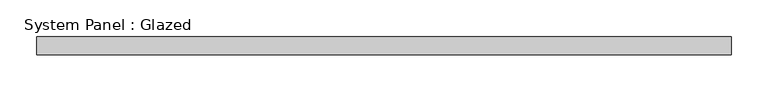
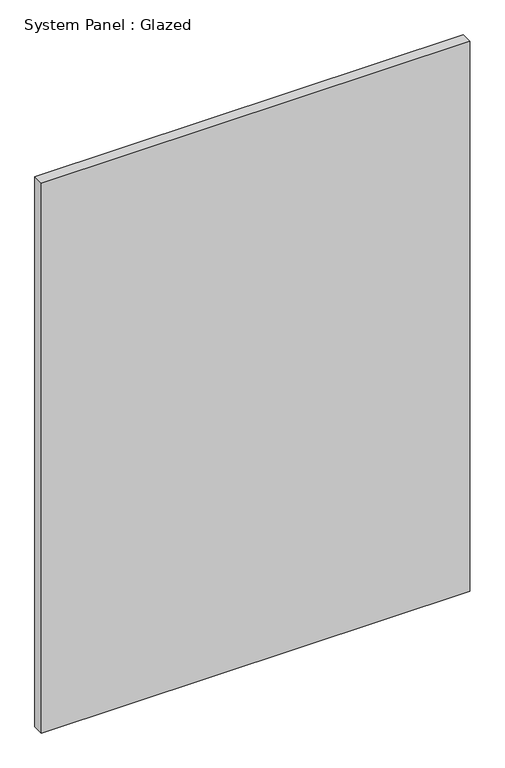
"""IFC4 building model written with IfcOpenShell, lengths in millimetres: plate geometry, System Panel : Glazed."""

import ifcopenshell
import ifcopenshell.guid

model = None  # the IFC model being written
_history = None  # IfcOwnerHistory: only IFC2X3 demands one
_inside = {}  # id of a spatial element -> (the spatial element, [elements in it])
_under = {}  # id of a project, library or spatial element -> (it, [spatial elements below it])
_declared = {}  # id of a project -> (the project, [libraries it declares])
_typed = {}  # id of a type object -> (the type object, [elements of that type])
_made_of = {}  # id of a material, layer set ... -> (it, [elements and type objects made of it])


def new_model(schema):
    """Start an empty IFC model of exactly this schema.

    Asked for "IFC4X3", IfcOpenShell would pick the latest addendum, in which some entities
    have other attributes; the version numbers below select the first issue.
    IFC2X3 requires an IfcOwnerHistory on every rooted entity: one is made here for all.
    """
    global model, _history
    if schema == "IFC4X3":
        model = ifcopenshell.file(schema_version=(4, 3, 0, 0))
    else:
        model = ifcopenshell.file(schema=schema)
    _inside.clear()
    _under.clear()
    _declared.clear()
    _typed.clear()
    _made_of.clear()
    _history = None
    if model.schema == "IFC2X3":
        org = make("IfcOrganization", Name="unknown")
        user = make(
            "IfcPersonAndOrganization",
            ThePerson=make("IfcPerson", FamilyName="unknown"),
            TheOrganization=org,
        )
        app = make(
            "IfcApplication",
            ApplicationDeveloper=org,
            Version="unknown",
            ApplicationFullName="unknown",
            ApplicationIdentifier="unknown",
        )
        _history = make(
            "IfcOwnerHistory",
            OwningUser=user,
            OwningApplication=app,
            ChangeAction="ADDED",
            CreationDate=0,
        )
    return model


def make(cls, **values):
    """One entity of the class cls with the attributes given. An attribute that is None is left unset."""
    return model.create_entity(
        cls, **{name: value for name, value in values.items() if value is not None}
    )


def rooted(cls, **values):
    """An entity with a GlobalId (a new one), such as an element, a storey or a relation."""
    return make(cls, GlobalId=ifcopenshell.guid.new(), OwnerHistory=_history, **values)


def si_unit(unit_type, name, prefix=None):
    """IfcSIUnit, for example si_unit("LENGTHUNIT", "METRE", prefix="MILLI")."""
    return make("IfcSIUnit", UnitType=unit_type, Prefix=prefix, Name=name)


def assignment(units):
    """IfcUnitAssignment: the units of a project."""
    return None if units is None else make("IfcUnitAssignment", Units=units)


def point(xyz):
    """IfcCartesianPoint."""
    return None if xyz is None else make("IfcCartesianPoint", Coordinates=xyz)


def direction(xyz):
    """IfcDirection."""
    return None if xyz is None else make("IfcDirection", DirectionRatios=xyz)


def frame(location, z_axis=None, x_axis=None):
    """IfcAxis2Placement3D, a coordinate frame: its origin and axes. An axis left out is left unset."""
    return make(
        "IfcAxis2Placement3D",
        Location=point(location),
        Axis=direction(z_axis),
        RefDirection=direction(x_axis),
    )


def origin():
    """The frame at (0, 0, 0) with its axes left unset."""
    return frame((0.0, 0.0, 0.0))


def origin_with_axes():
    """The frame at (0, 0, 0) with the z axis (0, 0, 1) and the x axis (1, 0, 0) written out."""
    return frame((0.0, 0.0, 0.0), z_axis=(0.0, 0.0, 1.0), x_axis=(1.0, 0.0, 0.0))


def place(relative_to, where):
    """IfcLocalPlacement: puts the frame where relative to a parent placement (None: the world)."""
    return make(
        "IfcLocalPlacement", PlacementRelTo=relative_to, RelativePlacement=where
    )


def context(
    kind, dimensions, precision=None, world=None, true_north=None, identifier=None
):
    """IfcGeometricRepresentationContext, for example the 3D "Model" context."""
    return make(
        "IfcGeometricRepresentationContext",
        ContextIdentifier=identifier,
        ContextType=kind,
        CoordinateSpaceDimension=dimensions,
        Precision=precision,
        WorldCoordinateSystem=world,
        TrueNorth=true_north,
    )


def project(units=None, contexts=None):
    """IfcProject with its units and contexts."""
    return rooted(
        "IfcProject",
        Name="project",
        RepresentationContexts=contexts,
        UnitsInContext=assignment(units),
    )


def spatial(cls, under=None, at=None, **own):
    """A site, building, storey or space (cls), placed at a placement, below another one or the project."""
    s = rooted(cls, ObjectPlacement=at, **own)
    if under is not None:
        _under.setdefault(under.id(), (under, []))[1].append(s)
    return s


def polyline(points):
    """IfcPolyline through the points."""
    return make("IfcPolyline", Points=[point(p) for p in points])


def outline(outer, holes=None, kind="AREA"):
    """IfcArbitraryClosedProfileDef: a profile drawn as a closed curve; with holes, ...WithVoids."""
    if holes is None:
        return make("IfcArbitraryClosedProfileDef", ProfileType=kind, OuterCurve=outer)
    return make(
        "IfcArbitraryProfileDefWithVoids",
        ProfileType=kind,
        OuterCurve=outer,
        InnerCurves=holes,
    )


def extrude(swept, where, along, depth):
    """IfcExtrudedAreaSolid: the profile swept, set in the frame where, extruded along a direction by depth."""
    return make(
        "IfcExtrudedAreaSolid",
        SweptArea=swept,
        Position=where,
        ExtrudedDirection=direction(along),
        Depth=depth,
    )


def shape(context_of_items, identifier, shape_type, items):
    """IfcShapeRepresentation: the items that make up one representation, for example the "Body"."""
    return make(
        "IfcShapeRepresentation",
        ContextOfItems=context_of_items,
        RepresentationIdentifier=identifier,
        RepresentationType=shape_type,
        Items=items,
    )


def source(mapping_origin, context_of_items, identifier, shape_type, items):
    """IfcRepresentationMap: a shape defined once, which mapped items show again and again."""
    return make(
        "IfcRepresentationMap",
        MappingOrigin=mapping_origin,
        MappedRepresentation=shape(context_of_items, identifier, shape_type, items),
    )


def transform(
    local_origin,
    x_axis=None,
    y_axis=None,
    z_axis=None,
    scale=None,
    scale2=None,
    scale3=None,
    uniform=True,
):
    """IfcCartesianTransformationOperator3D, or its non-uniform kind. x_axis, y_axis, z_axis: its Axis1, 2, 3."""
    if uniform:
        return make(
            "IfcCartesianTransformationOperator3D",
            Axis1=direction(x_axis),
            Axis2=direction(y_axis),
            LocalOrigin=point(local_origin),
            Scale=scale,
            Axis3=direction(z_axis),
        )
    return make(
        "IfcCartesianTransformationOperator3DnonUniform",
        Axis1=direction(x_axis),
        Axis2=direction(y_axis),
        LocalOrigin=point(local_origin),
        Scale=scale,
        Axis3=direction(z_axis),
        Scale2=scale2,
        Scale3=scale3,
    )


def mapped(mapping_source, mapping_target):
    """IfcMappedItem: shows the shape of a source again, moved by a transform."""
    return make(
        "IfcMappedItem", MappingSource=mapping_source, MappingTarget=mapping_target
    )


def made_of(thing, what):
    """Note that an element or type object is made of a material, layer set ...; save() writes the relation."""
    if what is not None:
        _made_of.setdefault(what.id(), (what, []))[1].append(thing)
    return thing


def element(
    cls,
    number,
    at=None,
    inside=None,
    cuts=None,
    type_object=None,
    material=None,
    context=None,
    identifier="Body",
    shape_type=None,
    held_by="IfcProductDefinitionShape",
    body=None,
    shapes=None,
    **own,
):
    """One element of the class cls, such as IfcWall. Its Tag is "e" and its number.

    at: its placement. inside: the storey or other place that contains it. cuts: it is an
    opening in that element (IfcRelVoidsElement). A single representation is given by context,
    identifier, shape_type and body (its items); several are given by shapes. held_by: the class
    of the entity that holds the representations. save() writes the other relations.
    """
    e = rooted(cls, Tag="e%d" % number, ObjectPlacement=at, **own)
    if body is not None:
        shapes = [shape(context, identifier, shape_type, body)]
    if shapes is not None:
        e.Representation = make(held_by, Representations=shapes)
    if inside is not None:
        _inside.setdefault(inside.id(), (inside, []))[1].append(e)
    if cuts is not None:
        rooted(
            "IfcRelVoidsElement", RelatingBuildingElement=cuts, RelatedOpeningElement=e
        )
    if type_object is not None:
        _typed.setdefault(type_object.id(), (type_object, []))[1].append(e)
    return made_of(e, material)


def aggregate(whole, parts):
    """IfcRelAggregates: a whole, such as a stair, and the parts it consists of."""
    return rooted("IfcRelAggregates", RelatingObject=whole, RelatedObjects=parts)


def save(model, path):
    """Write the relations noted so far, then the file.

    IfcRelAggregates (storeys below a building ...), IfcRelContainedInSpatialStructure (elements
    in a storey), IfcRelDefinesByType, IfcRelAssociatesMaterial and IfcRelDeclares: one each for
    every whole, place, type object, material and project.
    """
    for whole, parts in _under.values():
        aggregate(whole, parts)
    for where, things in _inside.values():
        rooted(
            "IfcRelContainedInSpatialStructure",
            RelatedElements=things,
            RelatingStructure=where,
        )
    for kind, things in _typed.values():
        rooted("IfcRelDefinesByType", RelatedObjects=things, RelatingType=kind)
    for what, things in _made_of.values():
        rooted("IfcRelAssociatesMaterial", RelatedObjects=things, RelatingMaterial=what)
    for by, libraries in _declared.values():
        rooted("IfcRelDeclares", RelatingContext=by, RelatedDefinitions=libraries)
    model.write(path)


def system_panel_glazed_8ec8f306(model_context):
    return source(origin(), model_context, "Body", "SweptSolid", [
        extrude(outline(polyline([(475.0, 24.5), (-475.0, 24.5), (-475.0, 49.5), (475.0, 49.5), (475.0, 24.5)])), origin_with_axes(), (0.0, 0.0, 1.0), 1289.7256931),
    ])


if __name__ == "__main__":
    model = new_model("IFC4")
    model_context = context("Model", 3, world=origin())
    ifc_project = project(units=[si_unit("LENGTHUNIT", "METRE", prefix="MILLI")], contexts=[model_context])
    site = spatial("IfcSite", under=ifc_project)
    building = spatial("IfcBuilding", under=site)
    placement = place(None, origin())
    system_panel_glazed_shape = system_panel_glazed_8ec8f306(model_context)
    element("IfcPlate", 1, ObjectType="System Panel : Glazed", at=placement, inside=building, context=model_context, shape_type="MappedRepresentation", body=[
        mapped(system_panel_glazed_shape, transform((0.0, 0.0, 0.0), x_axis=(1.0, 0.0, 0.0), y_axis=(0.0, 1.0, 0.0), z_axis=(0.0, 0.0, 1.0))),
    ])
    save(model, "model.ifc")
